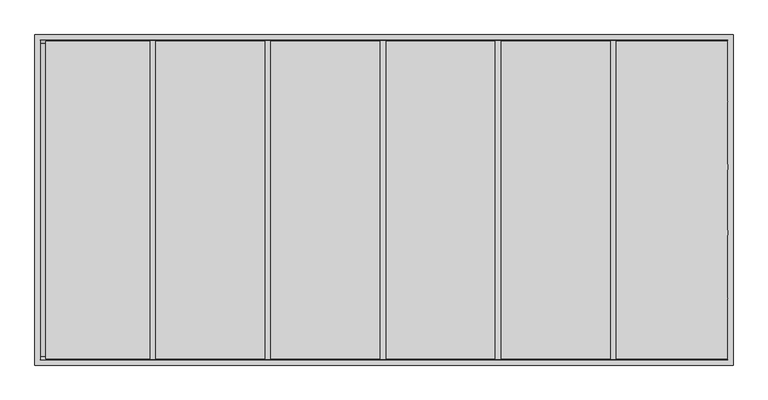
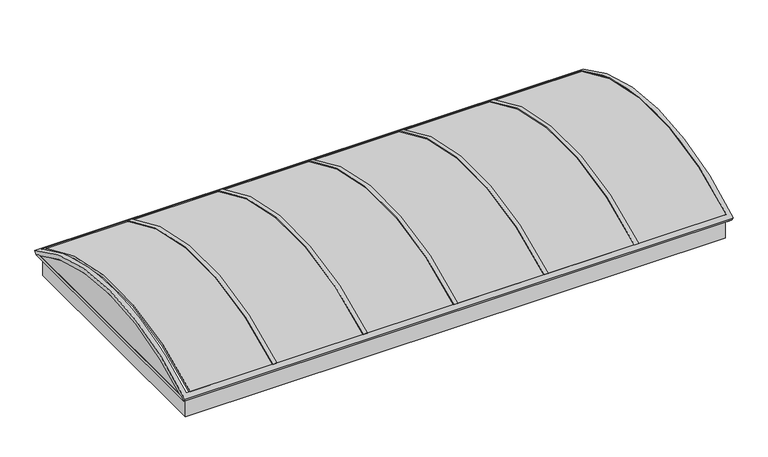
"""IFC4 building model written with IfcOpenShell, lengths in millimetres: proxy geometry, Fenetre de toit incurvée : Fenetre de toit incurvée."""

from ifc_helpers import new_model, si_unit, point, frame, frame_2d, origin, place, context, project, spatial, polyline, circle_curve, trimmed, segment, composite_curve, outline, extrude, source, transform, mapped, element, save
from ifc_brep_helpers import plane_surface, cylinder_surface, revolved_surface, advanced_brep


def generic_models_dcab04f5(model_context):
    return source(origin(), model_context, "Body", "SolidModel", [
        extrude(outline(composite_curve([segment(polyline([(1473.3235744, 4272.8352494), (-1473.3235744, 4272.8352494)]), True, "CONTINUOUS"), segment(trimmed(circle_curve(frame_2d((0.0, 1717.0931566)), 2950.0), [point((-1473.3235744, 4272.8352494))], [point((1473.3235744, 4272.8352494))], False, "CARTESIAN"), True, "CONTINUOUS")], self_intersect=False)), frame((-3265.0, 0.0, 0.0), z_axis=(1.0, 0.0, 0.0), x_axis=(0.0, 1.0, 0.0)), (0.0, 0.0, 1.0), 30.0),
        extrude(outline(composite_curve([segment(polyline([(1473.3235744, 4272.8352494), (-1473.3235744, 4272.8352494)]), True, "CONTINUOUS"), segment(trimmed(circle_curve(frame_2d((0.0, 1717.0931566)), 2950.0), [point((-1473.3235744, 4272.8352494))], [point((1473.3235744, 4272.8352494))], False, "CARTESIAN"), True, "CONTINUOUS")], self_intersect=False)), frame((3235.0, 0.0, 0.0), z_axis=(1.0, 0.0, 0.0), x_axis=(0.0, 1.0, 0.0)), (0.0, 0.0, 1.0), 30.0),
        extrude(outline(composite_curve([segment(polyline([(1525.0, 4242.3406692), (-1525.0, 4242.3406692)]), True, "CONTINUOUS"), segment(trimmed(circle_curve(frame_2d((0.0, 1717.0931566)), 2950.0), [point((-1525.0, 4242.3406692))], [point((-1473.3235744, 4272.8352494))], False, "CARTESIAN"), True, "CONTINUOUS"), segment(polyline([(-1473.3235744, 4272.8352494), (1473.3235744, 4272.8352494)]), True, "CONTINUOUS"), segment(trimmed(circle_curve(frame_2d((0.0, 1717.0931566)), 2950.0), [point((1473.3235744, 4272.8352494))], [point((1525.0, 4242.3406692))], False, "CARTESIAN"), True, "CONTINUOUS")], self_intersect=False)), frame((-3275.0, 0.0, 0.0), z_axis=(1.0, 0.0, 0.0), x_axis=(0.0, 1.0, 0.0)), (0.0, 0.0, 1.0), 50.0),
        extrude(outline(composite_curve([segment(polyline([(1525.0, 4242.3406692), (-1525.0, 4242.3406692)]), True, "CONTINUOUS"), segment(trimmed(circle_curve(frame_2d((0.0, 1717.0931566)), 2950.0), [point((-1525.0, 4242.3406692))], [point((-1473.3235744, 4272.8352494))], False, "CARTESIAN"), True, "CONTINUOUS"), segment(polyline([(-1473.3235744, 4272.8352494), (1473.3235744, 4272.8352494)]), True, "CONTINUOUS"), segment(trimmed(circle_curve(frame_2d((0.0, 1717.0931566)), 2950.0), [point((1473.3235744, 4272.8352494))], [point((1525.0, 4242.3406692))], False, "CARTESIAN"), True, "CONTINUOUS")], self_intersect=False)), frame((3225.0, 0.0, 0.0), z_axis=(1.0, 0.0, 0.0), x_axis=(0.0, 1.0, 0.0)), (0.0, 0.0, 1.0), 50.0),
        extrude(outline(composite_curve([segment(trimmed(circle_curve(frame_2d((0.0, 1717.0931566)), 2990.0), [point((-1494.0057616, 4307.0828833))], [point((1494.0057616, 4307.0828833))], False, "CARTESIAN"), True, "CONTINUOUS"), segment(polyline([(1494.0057616, 4307.0828833), (1478.4941319, 4281.3971756)]), True, "CONTINUOUS"), segment(trimmed(circle_curve(frame_2d((0.0, 1717.0931566)), 2960.0), [point((1478.4941319, 4281.3971756))], [point((-1478.4941319, 4281.3971756))], True, "CARTESIAN"), True, "CONTINUOUS"), segment(polyline([(-1478.4941319, 4281.3971756), (-1494.0057616, 4307.0828833)]), True, "CONTINUOUS")], self_intersect=False)), frame((-2145.0, 0.0, 0.0), z_axis=(1.0, 0.0, 0.0), x_axis=(0.0, 1.0, 0.0)), (0.0, 0.0, 1.0), 1030.0),
        extrude(outline(composite_curve([segment(trimmed(circle_curve(frame_2d((0.0, 1717.0931566)), 2990.0), [point((-1494.0057616, 4307.0828833))], [point((1494.0057616, 4307.0828833))], False, "CARTESIAN"), True, "CONTINUOUS"), segment(polyline([(1494.0057616, 4307.0828833), (1478.4941319, 4281.3971756)]), True, "CONTINUOUS"), segment(trimmed(circle_curve(frame_2d((0.0, 1717.0931566)), 2960.0), [point((1478.4941319, 4281.3971756))], [point((-1478.4941319, 4281.3971756))], True, "CARTESIAN"), True, "CONTINUOUS"), segment(polyline([(-1478.4941319, 4281.3971756), (-1494.0057616, 4307.0828833)]), True, "CONTINUOUS")], self_intersect=False)), frame((-3175.0, 0.0, 0.0), z_axis=(1.0, 0.0, 0.0), x_axis=(0.0, 1.0, 0.0)), (0.0, 0.0, 1.0), 980.0),
        extrude(outline(composite_curve([segment(trimmed(circle_curve(frame_2d((0.0, 1717.0931566)), 2990.0), [point((-1494.0057616, 4307.0828833))], [point((1494.0057616, 4307.0828833))], False, "CARTESIAN"), True, "CONTINUOUS"), segment(polyline([(1494.0057616, 4307.0828833), (1478.4941319, 4281.3971756)]), True, "CONTINUOUS"), segment(trimmed(circle_curve(frame_2d((0.0, 1717.0931566)), 2960.0), [point((1478.4941319, 4281.3971756))], [point((-1478.4941319, 4281.3971756))], True, "CARTESIAN"), True, "CONTINUOUS"), segment(polyline([(-1478.4941319, 4281.3971756), (-1494.0057616, 4307.0828833)]), True, "CONTINUOUS")], self_intersect=False)), frame((15.0, 0.0, 0.0), z_axis=(1.0, 0.0, 0.0), x_axis=(0.0, 1.0, 0.0)), (0.0, 0.0, 1.0), 1030.0),
        extrude(outline(composite_curve([segment(trimmed(circle_curve(frame_2d((0.0, 1717.0931566)), 2990.0), [point((-1494.0057616, 4307.0828833))], [point((1494.0057616, 4307.0828833))], False, "CARTESIAN"), True, "CONTINUOUS"), segment(polyline([(1494.0057616, 4307.0828833), (1478.4941319, 4281.3971756)]), True, "CONTINUOUS"), segment(trimmed(circle_curve(frame_2d((0.0, 1717.0931566)), 2960.0), [point((1478.4941319, 4281.3971756))], [point((-1478.4941319, 4281.3971756))], True, "CARTESIAN"), True, "CONTINUOUS"), segment(polyline([(-1478.4941319, 4281.3971756), (-1494.0057616, 4307.0828833)]), True, "CONTINUOUS")], self_intersect=False)), frame((1095.0, 0.0, 0.0), z_axis=(1.0, 0.0, 0.0), x_axis=(0.0, 1.0, 0.0)), (0.0, 0.0, 1.0), 1030.0),
        extrude(outline(composite_curve([segment(trimmed(circle_curve(frame_2d((0.0, 1717.0931566)), 2990.0), [point((-1494.0057616, 4307.0828833))], [point((1494.0057616, 4307.0828833))], False, "CARTESIAN"), True, "CONTINUOUS"), segment(polyline([(1494.0057616, 4307.0828833), (1478.4941319, 4281.3971756)]), True, "CONTINUOUS"), segment(trimmed(circle_curve(frame_2d((0.0, 1717.0931566)), 2960.0), [point((1478.4941319, 4281.3971756))], [point((-1478.4941319, 4281.3971756))], True, "CARTESIAN"), True, "CONTINUOUS"), segment(polyline([(-1478.4941319, 4281.3971756), (-1494.0057616, 4307.0828833)]), True, "CONTINUOUS")], self_intersect=False)), frame((2175.0, 0.0, 0.0), z_axis=(1.0, 0.0, 0.0), x_axis=(0.0, 1.0, 0.0)), (0.0, 0.0, 1.0), 1050.0),
        extrude(outline(composite_curve([segment(trimmed(circle_curve(frame_2d((0.0, 1717.0931566)), 2990.0), [point((-1494.0057616, 4307.0828833))], [point((1494.0057616, 4307.0828833))], False, "CARTESIAN"), True, "CONTINUOUS"), segment(polyline([(1494.0057616, 4307.0828833), (1478.4941319, 4281.3971756)]), True, "CONTINUOUS"), segment(trimmed(circle_curve(frame_2d((0.0, 1717.0931566)), 2960.0), [point((1478.4941319, 4281.3971756))], [point((-1478.4941319, 4281.3971756))], True, "CARTESIAN"), True, "CONTINUOUS"), segment(polyline([(-1478.4941319, 4281.3971756), (-1494.0057616, 4307.0828833)]), True, "CONTINUOUS")], self_intersect=False)), frame((-1065.0, 0.0, 0.0), z_axis=(1.0, 0.0, 0.0), x_axis=(0.0, 1.0, 0.0)), (0.0, 0.0, 1.0), 1030.0),
        extrude(outline(composite_curve([segment(trimmed(circle_curve(frame_2d((0.0, 1717.0931566)), 2950.0), [point((1473.3235744, 4272.8352494))], [point((-1473.3235744, 4272.8352494))], True, "CARTESIAN"), True, "CONTINUOUS"), segment(polyline([(-1473.3235744, 4272.8352494), (-1499.1762908, 4315.6447626)]), True, "CONTINUOUS"), segment(trimmed(circle_curve(frame_2d((0.0, 1717.0931566)), 3000.0), [point((-1499.1762908, 4315.6447626))], [point((1499.1762908, 4315.6447626))], False, "CARTESIAN"), True, "CONTINUOUS"), segment(polyline([(1499.1762908, 4315.6447626), (1473.3235744, 4272.8352494)]), True, "CONTINUOUS")], self_intersect=False)), frame((2125.0, 0.0, 0.0), z_axis=(1.0, 0.0, 0.0), x_axis=(0.0, 1.0, 0.0)), (0.0, 0.0, 1.0), 50.0),
        extrude(outline(composite_curve([segment(trimmed(circle_curve(frame_2d((0.0, 1717.0931566)), 2950.0), [point((1473.3235744, 4272.8352494))], [point((-1473.3235744, 4272.8352494))], True, "CARTESIAN"), True, "CONTINUOUS"), segment(polyline([(-1473.3235744, 4272.8352494), (-1499.1762908, 4315.6447626)]), True, "CONTINUOUS"), segment(trimmed(circle_curve(frame_2d((0.0, 1717.0931566)), 3000.0), [point((-1499.1762908, 4315.6447626))], [point((1499.1762908, 4315.6447626))], False, "CARTESIAN"), True, "CONTINUOUS"), segment(polyline([(1499.1762908, 4315.6447626), (1473.3235744, 4272.8352494)]), True, "CONTINUOUS")], self_intersect=False)), frame((1045.0, 0.0, 0.0), z_axis=(1.0, 0.0, 0.0), x_axis=(0.0, 1.0, 0.0)), (0.0, 0.0, 1.0), 50.0),
        extrude(outline(composite_curve([segment(trimmed(circle_curve(frame_2d((0.0, 1717.0931566)), 2950.0), [point((1473.3235744, 4272.8352494))], [point((-1473.3235744, 4272.8352494))], True, "CARTESIAN"), True, "CONTINUOUS"), segment(polyline([(-1473.3235744, 4272.8352494), (-1499.1762908, 4315.6447626)]), True, "CONTINUOUS"), segment(trimmed(circle_curve(frame_2d((0.0, 1717.0931566)), 3000.0), [point((-1499.1762908, 4315.6447626))], [point((1499.1762908, 4315.6447626))], False, "CARTESIAN"), True, "CONTINUOUS"), segment(polyline([(1499.1762908, 4315.6447626), (1473.3235744, 4272.8352494)]), True, "CONTINUOUS")], self_intersect=False)), frame((-35.0, 0.0, 0.0), z_axis=(1.0, 0.0, 0.0), x_axis=(0.0, 1.0, 0.0)), (0.0, 0.0, 1.0), 50.0),
        extrude(outline(composite_curve([segment(trimmed(circle_curve(frame_2d((0.0, 1717.0931566)), 2950.0), [point((1473.3235744, 4272.8352494))], [point((-1473.3235744, 4272.8352494))], True, "CARTESIAN"), True, "CONTINUOUS"), segment(polyline([(-1473.3235744, 4272.8352494), (-1499.1762908, 4315.6447626)]), True, "CONTINUOUS"), segment(trimmed(circle_curve(frame_2d((0.0, 1717.0931566)), 3000.0), [point((-1499.1762908, 4315.6447626))], [point((1499.1762908, 4315.6447626))], False, "CARTESIAN"), True, "CONTINUOUS"), segment(polyline([(1499.1762908, 4315.6447626), (1473.3235744, 4272.8352494)]), True, "CONTINUOUS")], self_intersect=False)), frame((-1115.0, 0.0, 0.0), z_axis=(1.0, 0.0, 0.0), x_axis=(0.0, 1.0, 0.0)), (0.0, 0.0, 1.0), 50.0),
        extrude(outline(composite_curve([segment(trimmed(circle_curve(frame_2d((0.0, 1717.0931566)), 2950.0), [point((1473.3235744, 4272.8352494))], [point((-1473.3235744, 4272.8352494))], True, "CARTESIAN"), True, "CONTINUOUS"), segment(polyline([(-1473.3235744, 4272.8352494), (-1499.1762908, 4315.6447626)]), True, "CONTINUOUS"), segment(trimmed(circle_curve(frame_2d((0.0, 1717.0931566)), 3000.0), [point((-1499.1762908, 4315.6447626))], [point((1499.1762908, 4315.6447626))], False, "CARTESIAN"), True, "CONTINUOUS"), segment(polyline([(1499.1762908, 4315.6447626), (1473.3235744, 4272.8352494)]), True, "CONTINUOUS")], self_intersect=False)), frame((-2195.0, 0.0, 0.0), z_axis=(1.0, 0.0, 0.0), x_axis=(0.0, 1.0, 0.0)), (0.0, 0.0, 1.0), 50.0),
        advanced_brep(
        [(3275.0, 1525.0, 4242.3406692), (3275.0, 1550.8474576, 4285.1414745), (3275.0, -1550.8474576, 4285.1414745), (3275.0, -1525.0, 4242.3406692), (-3275.0, 1525.0, 4242.3406692), (-3275.0, -1525.0, 4242.3406692), (-3275.0, -1550.8474576, 4285.1414745), (-3275.0, 1550.8474576, 4285.1414745), (3225.0, 1499.1762908, 4315.6447626), (3225.0, -1499.1762908, 4315.6447626), (-3225.0, -1499.1762908, 4315.6447626), (-3225.0, 1499.1762908, 4315.6447626), (3225.0, -1473.3235744, 4272.8352494), (3225.0, 1473.3235744, 4272.8352494), (-3225.0, 1473.3235744, 4272.8352494), (-3225.0, -1473.3235744, 4272.8352494)],
        [
            (0, 1),
            (1, 2, circle_curve(frame((3275.0, 0.0, 1717.0931566), z_axis=(1.0, 0.0, 0.0), x_axis=(0.0, 1.0, 0.0)), 3000.0)),
            (2, 3),
            (3, 0, circle_curve(frame((3275.0, 0.0, 1717.0931566), z_axis=(-1.0, 0.0, 0.0), x_axis=(0.0, 1.0, 0.0)), 2950.0)),
            (4, 5, circle_curve(frame((-3275.0, 0.0, 1717.0931566), z_axis=(1.0, 0.0, 0.0), x_axis=(0.0, 1.0, 0.0)), 2950.0)),
            (5, 6),
            (6, 7, circle_curve(frame((-3275.0, 0.0, 1717.0931566), z_axis=(-1.0, 0.0, 0.0), x_axis=(0.0, 1.0, 0.0)), 3000.0)),
            (7, 4),
            (0, 4),
            (7, 1),
            (6, 2),
            (8, 9, circle_curve(frame((3225.0, 0.0, 1717.0931566), z_axis=(1.0, 0.0, 0.0), x_axis=(0.0, 1.0, 0.0)), 3000.0)),
            (9, 10),
            (10, 11, circle_curve(frame((-3225.0, 0.0, 1717.0931566), z_axis=(-1.0, 0.0, 0.0), x_axis=(0.0, 1.0, 0.0)), 3000.0)),
            (11, 8),
            (5, 3),
            (12, 13, circle_curve(frame((3225.0, 0.0, 1717.0931566), z_axis=(-1.0, 0.0, 0.0), x_axis=(0.0, 1.0, 0.0)), 2950.0)),
            (13, 14),
            (14, 15, circle_curve(frame((-3225.0, 0.0, 1717.0931566), z_axis=(1.0, 0.0, 0.0), x_axis=(0.0, 1.0, 0.0)), 2950.0)),
            (15, 12),
            (12, 9),
            (8, 13),
            (14, 11),
            (10, 15),
        ],
        [
            plane_surface(frame((3275.0, 1525.0, 4242.3406692), z_axis=(1.0000000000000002, 0.0, 0.0), x_axis=(0.0, 0.5169491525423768, 0.8560161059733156))),
            plane_surface(frame((-3275.0, 1525.0, 4242.3406692), z_axis=(-1.0000000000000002, 0.0, 0.0), x_axis=(0.0, -0.5169491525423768, -0.8560161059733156))),
            plane_surface(frame((3275.0, 1525.0, 4242.3406692), z_axis=(0.0, 0.8560161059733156, -0.5169491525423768), x_axis=(-1.0, 0.0, 0.0))),
            cylinder_surface(frame((-3275.0, 0.0, 1717.0931566), z_axis=(1.0, 0.0, 0.0), x_axis=(0.0, 1.0, 0.0)), 3000.0),
            plane_surface(frame((3275.0, -1550.8474576, 4285.1414745), z_axis=(0.0, -0.8560161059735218, -0.516949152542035), x_axis=(-1.0, 0.0, 0.0))),
            revolved_surface(polyline([(-3275.0, 2950.0, 1717.0931566), (3275.0, 2950.0, 1717.0931566)]), (-3275.0, 0.0, 1717.0931566), (-1.0, 0.0, 0.0)),
            plane_surface(frame((3225.0, 2935.9251863, 1711.1679703), z_axis=(-1.0, 0.0, 0.0), x_axis=(0.0, 0.0, -1.0))),
            plane_surface(frame((-3225.0, 2935.9251863, 1711.1679703), z_axis=(1.0, 0.0, 0.0), x_axis=(0.0, 0.0, 1.0))),
            plane_surface(frame((3225.0, 1463.3909114, 4256.3877526), z_axis=(0.0, -0.856016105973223, 0.5169491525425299), x_axis=(-1.0, 0.0, 0.0))),
            plane_surface(frame((3225.0, -1507.9813786, 4330.2251077), z_axis=(0.0, 0.8560161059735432, 0.5169491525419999), x_axis=(-1.0, 0.0, 0.0))),
        ],
        [
            (0, [[1, 2, 3, 4]]),
            (1, [[5, 6, 7, 8]]),
            (2, [[-1, 9, -8, 10]]),
            (3, [[-2, -10, -7, 11], [12, 13, 14, 15]]),
            (4, [[-3, -11, -6, 16]]),
            (5, [[-4, -16, -5, -9], [17, 18, 19, 20]]),
            (6, [[21, -12, 22, -17]]),
            (7, [[23, -14, 24, -19]]),
            (8, [[-22, -15, -23, -18]]),
            (9, [[-21, -20, -24, -13]]),
        ],
    ),
        extrude(outline(polyline([(-3225.0, 1475.0), (3225.0, 1475.0), (3225.0, -1475.0), (-3225.0, -1475.0), (-3225.0, 1475.0)]), holes=[polyline([(3175.0, -1425.0), (3175.0, 1425.0), (-3175.0, 1425.0), (-3175.0, -1425.0), (3175.0, -1425.0)])]), frame((0.0, 0.0, 4000.0), z_axis=(0.0, 0.0, 1.0), x_axis=(1.0, 0.0, 0.0)), (0.0, 0.0, 1.0), 242.3406692),
    ])


if __name__ == "__main__":
    model = new_model("IFC4")
    model_context = context("Model", 3, world=origin())
    ifc_project = project(units=[si_unit("LENGTHUNIT", "METRE", prefix="MILLI")], contexts=[model_context])
    site = spatial("IfcSite", under=ifc_project)
    building = spatial("IfcBuilding", under=site)
    placement = place(None, origin())
    generic_models_shape = generic_models_dcab04f5(model_context)
    element("IfcBuildingElementProxy", 1, Name="Fenetre de toit incurvée : Fenetre de toit incurvée", ObjectType="Fenetre de toit incurvée : Fenetre de toit incurvée", at=placement, inside=building, context=model_context, shape_type="MappedRepresentation", body=[
        mapped(generic_models_shape, transform((0.0, 0.0, 0.0), x_axis=(1.0, 0.0, 0.0), y_axis=(0.0, 1.0, 0.0), z_axis=(0.0, 0.0, 1.0))),
    ])
    save(model, "model.ifc")
